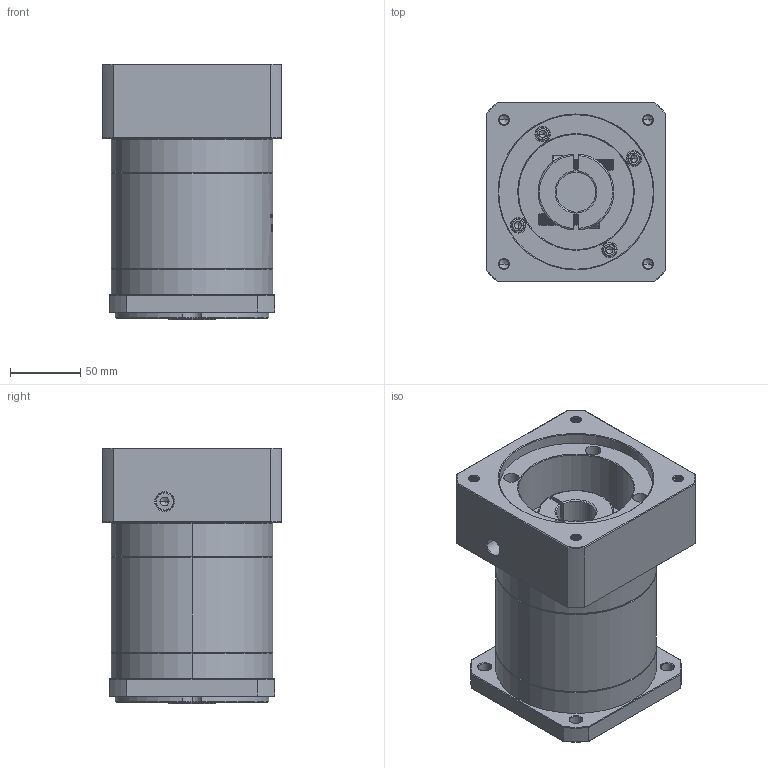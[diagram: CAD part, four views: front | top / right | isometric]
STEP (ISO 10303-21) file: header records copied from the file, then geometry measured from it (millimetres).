
FILE_DESCRIPTION (( 'STEP AP214' ), '1' );
FILE_NAME ('ZF120A-K25-L2-28-110-145-M8.step', '2023-03-07T09:38:46', ( '' ), ( '' ), 'SwSTEP 2.0', 'SolidWorks 2016', '' );
FILE_SCHEMA (( 'AUTOMOTIVE_DESIGN' ));
Length unit declared in the file: millimetre
Products named in the file (1): ZF120A-K25-L2-28-110-145-M8
Bounding box: 128 x 128 x 182 mm (x, y, z)
Volume: 1908647.1 mm3; surface area: 188074.6 mm2
Topology: 6 solids, 6 shells, 1883 faces, 4920 edges, 3134 vertices
Faces by surface type: plane 849, cylinder 387, cone 315, bspline 312, torus 20
Entity records: 100889 total; most frequent: CARTESIAN_POINT 37462, ORIENTED_EDGE 9784, DIRECTION 7614, EDGE_CURVE 4892, VERTEX_POINT 3134, VECTOR 2686, LINE 2686, AXIS2_PLACEMENT_3D 2464
